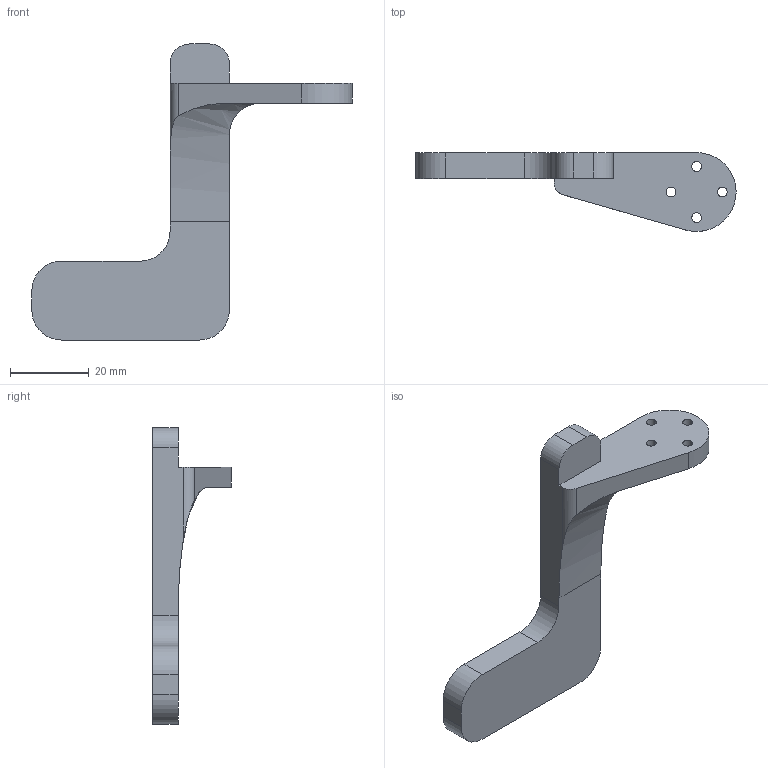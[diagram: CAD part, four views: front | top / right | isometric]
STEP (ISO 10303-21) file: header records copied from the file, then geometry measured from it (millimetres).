
FILE_DESCRIPTION (( 'STEP AP203' ), '1' );
FILE_NAME ('盓殤test1.STEP', '2024-08-14T09:45:56', ( '' ), ( '' ), 'SwSTEP 2.0', 'SolidWorks 2024', '' );
FILE_SCHEMA (( 'CONFIG_CONTROL_DESIGN' ));
Length unit declared in the file: millimetre
Products named in the file (1): 支架test1
Bounding box: 81.11 x 19.98 x 75 mm (x, y, z)
Volume: 15394.4 mm3; surface area: 6815.6 mm2
Topology: 1 solids, 1 shells, 34 faces, 94 edges, 63 vertices
Faces by surface type: cylinder 19, plane 14, bspline 1
Entity records: 1290 total; most frequent: CARTESIAN_POINT 307, DIRECTION 190, ORIENTED_EDGE 188, EDGE_CURVE 94, AXIS2_PLACEMENT_3D 70, VERTEX_POINT 63, VECTOR 50, LINE 50
